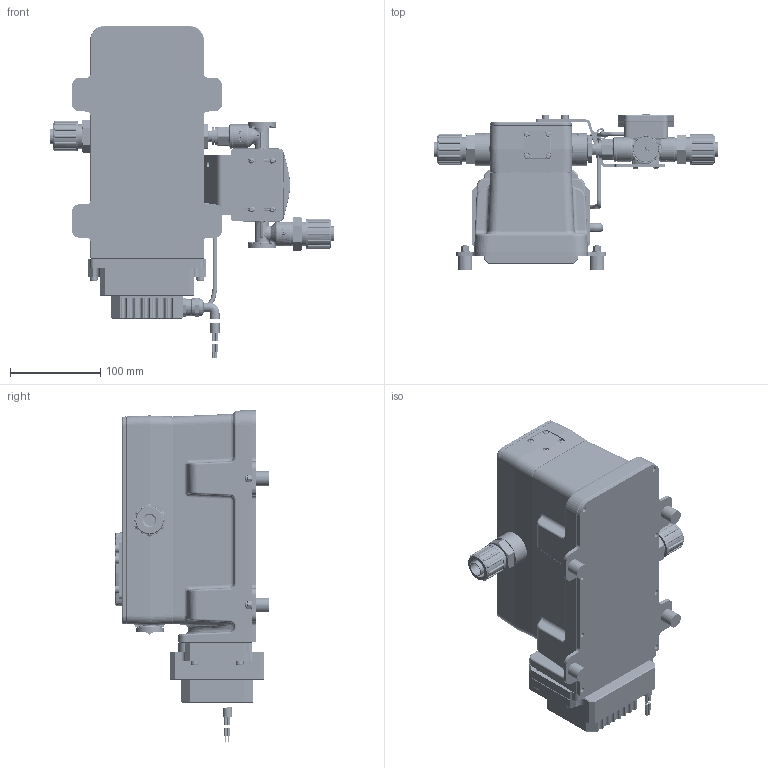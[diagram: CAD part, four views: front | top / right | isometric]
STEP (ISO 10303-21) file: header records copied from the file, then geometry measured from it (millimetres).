
FILE_DESCRIPTION((''),'2;1');
FILE_NAME('CAD1130120_SW0001','2026-06-01T10:54:42',('DommenR'),('KNF Flodos AG, 6210 Sursee, Switzerland'),'CREO PARAMETRIC BY PTC INC, 2024401','CREO PARAMETRIC BY PTC INC, 2024401','');
FILE_SCHEMA(('AP242_MANAGED_MODEL_BASED_3D_ENGINEERING_MIM_LF { 1 0 10303 442 1 1 4 }'));
Products named in the file (1): CAD1130120_SW0001
Bounding box: 314.6 x 171.56 x 367.5 mm (x, y, z)
Volume: 4497371.5 mm3; surface area: 382884 mm2
Topology: 5 solids, 10 shells, 13371 faces, 33785 edges, 20357 vertices
Faces by surface type: plane 4227, bspline 3374, cylinder 2604, extrusion 1028, torus 877, cone 743, sphere 514, revolution 4
Entity records: 597708 total; most frequent: CARTESIAN_POINT 310607, ORIENTED_EDGE 66426, DIRECTION 47295, EDGE_CURVE 33213, VERTEX_POINT 20350, AXIS2_PLACEMENT_3D 16079, VECTOR 15133, LINE 14105
